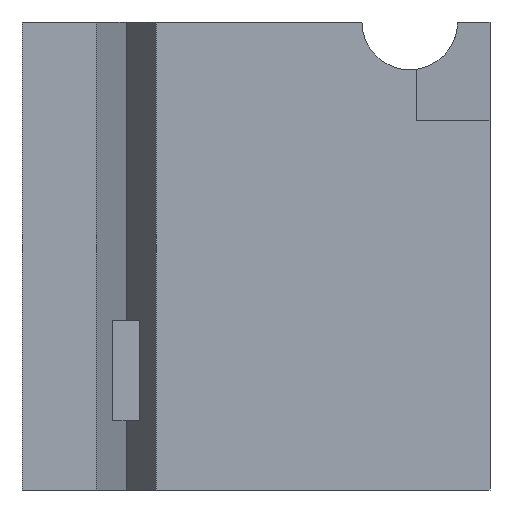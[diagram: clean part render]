
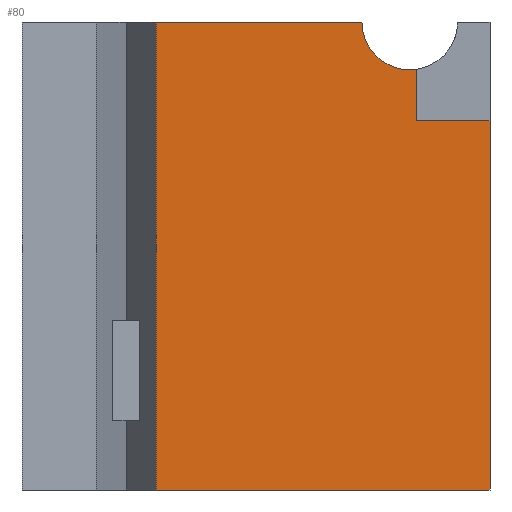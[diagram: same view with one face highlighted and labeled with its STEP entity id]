
A CAD part, front view. The second image highlights one B-rep face of the part: STEP entity #80.
In plain terms, the highlighted planar face has unit normal (0, -1, 0).
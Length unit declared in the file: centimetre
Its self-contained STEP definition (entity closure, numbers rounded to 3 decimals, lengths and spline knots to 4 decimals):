
#35 = EDGE_CURVE ( 'NONE', #1317, #409, #817, .T. ) ;
#42 = CARTESIAN_POINT ( 'NONE',  ( 828.5728, 0., 1000. ) ) ;
#80 = ADVANCED_FACE ( 'NONE', ( #1527 ), #163, .F. ) ;
#83 = CARTESIAN_POINT ( 'NONE',  ( 286.6351, 0., 1000. ) ) ;
#137 = DIRECTION ( 'NONE',  ( 0., 0., -1. ) ) ;
#143 = DIRECTION ( 'NONE',  ( 0., 0., -1. ) ) ;
#145 = AXIS2_PLACEMENT_3D ( 'NONE', #1039, #532, #1011 ) ;
#146 = VERTEX_POINT ( 'NONE', #1140 ) ;
#158 = DIRECTION ( 'NONE',  ( 1., 0., 0. ) ) ;
#163 = PLANE ( 'NONE',  #145 ) ;
#188 = CARTESIAN_POINT ( 'NONE',  ( 0., 0., 0. ) ) ;
#205 = ORIENTED_EDGE ( 'NONE', *, *, #1266, .F. ) ;
#230 = EDGE_LOOP ( 'NONE', ( #233, #247, #205, #1274, #1486, #1296, #645, #258 ) ) ;
#231 = LINE ( 'NONE', #349, #1227 ) ;
#233 = ORIENTED_EDGE ( 'NONE', *, *, #376, .F. ) ;
#247 = ORIENTED_EDGE ( 'NONE', *, *, #1331, .T. ) ;
#258 = ORIENTED_EDGE ( 'NONE', *, *, #536, .F. ) ;
#275 = DIRECTION ( 'NONE',  ( 0., 0., 1. ) ) ;
#278 = VERTEX_POINT ( 'NONE', #361 ) ;
#287 = DIRECTION ( 'NONE',  ( 0., 0., -1. ) ) ;
#288 = CARTESIAN_POINT ( 'NONE',  ( 842.2499, 0., 788.8088 ) ) ;
#341 = AXIS2_PLACEMENT_3D ( 'NONE', #977, #1459, #137 ) ;
#349 = CARTESIAN_POINT ( 'NONE',  ( 0., 0., 1000. ) ) ;
#361 = CARTESIAN_POINT ( 'NONE',  ( 842.2499, 0., 898.7219 ) ) ;
#372 = DIRECTION ( 'NONE',  ( 1., 0., 0. ) ) ;
#376 = EDGE_CURVE ( 'NONE', #1066, #674, #853, .T. ) ;
#404 = VERTEX_POINT ( 'NONE', #1349 ) ;
#409 = VERTEX_POINT ( 'NONE', #744 ) ;
#431 = CARTESIAN_POINT ( 'NONE',  ( 286.6351, 0., 1000. ) ) ;
#469 = VECTOR ( 'NONE', #287, 100. ) ;
#516 = EDGE_CURVE ( 'NONE', #146, #404, #861, .T. ) ;
#532 = DIRECTION ( 'NONE',  ( 0., 1., 0. ) ) ;
#536 = EDGE_CURVE ( 'NONE', #674, #404, #1017, .T. ) ;
#563 = DIRECTION ( 'NONE',  ( 0., 0., -1. ) ) ;
#573 = VECTOR ( 'NONE', #275, 100. ) ;
#576 = CARTESIAN_POINT ( 'NONE',  ( 1000., 0., 788.8088 ) ) ;
#593 = VECTOR ( 'NONE', #158, 100. ) ;
#645 = ORIENTED_EDGE ( 'NONE', *, *, #516, .T. ) ;
#674 = VERTEX_POINT ( 'NONE', #576 ) ;
#737 = CARTESIAN_POINT ( 'NONE',  ( 726.3754, 0., 1000. ) ) ;
#744 = CARTESIAN_POINT ( 'NONE',  ( 828.5728, 0., 897.8026 ) ) ;
#770 = CARTESIAN_POINT ( 'NONE',  ( 1000., 0., 1000. ) ) ;
#817 = CIRCLE ( 'NONE', #341, 102.1974 ) ;
#823 = VECTOR ( 'NONE', #987, 100. ) ;
#853 = LINE ( 'NONE', #870, #823 ) ;
#861 = LINE ( 'NONE', #188, #593 ) ;
#870 = CARTESIAN_POINT ( 'NONE',  ( 842.2499, 0., 788.8088 ) ) ;
#873 = CARTESIAN_POINT ( 'NONE',  ( 842.2499, 0., 788.8088 ) ) ;
#977 = CARTESIAN_POINT ( 'NONE',  ( 828.5728, 0., 1000. ) ) ;
#987 = DIRECTION ( 'NONE',  ( 1., 0., 0. ) ) ;
#1011 = DIRECTION ( 'NONE',  ( 0., 0., 1. ) ) ;
#1014 = DIRECTION ( 'NONE',  ( 0., -1., 0. ) ) ;
#1017 = LINE ( 'NONE', #770, #469 ) ;
#1039 = CARTESIAN_POINT ( 'NONE',  ( 0., 0., 1000. ) ) ;
#1066 = VERTEX_POINT ( 'NONE', #288 ) ;
#1098 = CIRCLE ( 'NONE', #1555, 102.1974 ) ;
#1107 = LINE ( 'NONE', #873, #573 ) ;
#1140 = CARTESIAN_POINT ( 'NONE',  ( 286.6351, 0., 0. ) ) ;
#1157 = VERTEX_POINT ( 'NONE', #431 ) ;
#1163 = LINE ( 'NONE', #83, #1484 ) ;
#1191 = EDGE_CURVE ( 'NONE', #1157, #146, #1163, .T. ) ;
#1227 = VECTOR ( 'NONE', #372, 100. ) ;
#1266 = EDGE_CURVE ( 'NONE', #409, #278, #1098, .T. ) ;
#1274 = ORIENTED_EDGE ( 'NONE', *, *, #35, .F. ) ;
#1296 = ORIENTED_EDGE ( 'NONE', *, *, #1191, .T. ) ;
#1317 = VERTEX_POINT ( 'NONE', #737 ) ;
#1331 = EDGE_CURVE ( 'NONE', #1066, #278, #1107, .T. ) ;
#1349 = CARTESIAN_POINT ( 'NONE',  ( 1000., 0., 0. ) ) ;
#1424 = EDGE_CURVE ( 'NONE', #1157, #1317, #231, .T. ) ;
#1459 = DIRECTION ( 'NONE',  ( 0., -1., 0. ) ) ;
#1484 = VECTOR ( 'NONE', #563, 100. ) ;
#1486 = ORIENTED_EDGE ( 'NONE', *, *, #1424, .F. ) ;
#1527 = FACE_OUTER_BOUND ( 'NONE', #230, .T. ) ;
#1555 = AXIS2_PLACEMENT_3D ( 'NONE', #42, #1014, #143 ) ;
